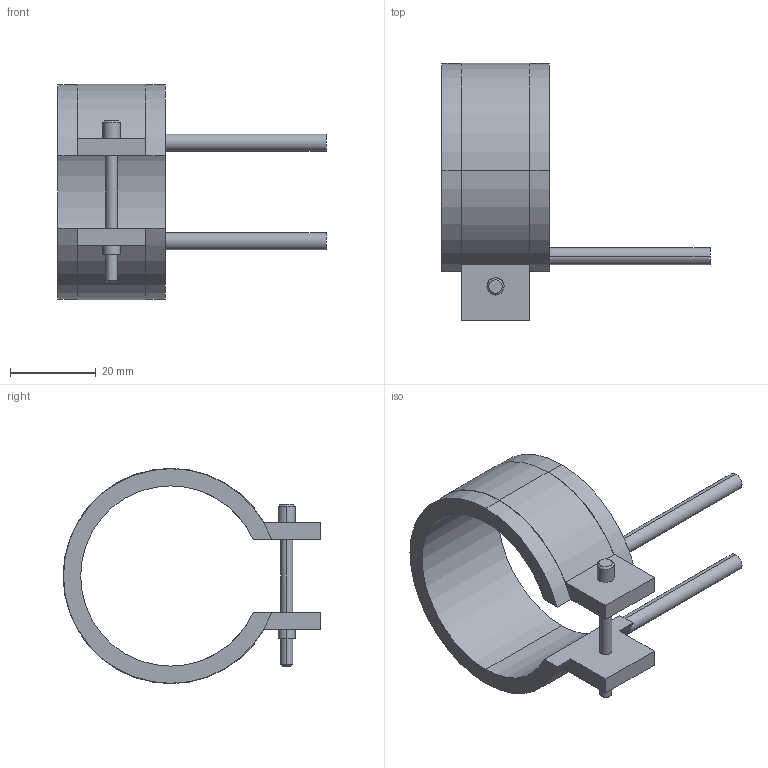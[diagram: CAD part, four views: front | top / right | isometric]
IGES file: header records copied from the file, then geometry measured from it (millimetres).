
Start section: START RECORD GO HERE.
Global section: file name: 14042025.igs; native system: DASSAULT SYSTEMES CATIA V5 R20 - www.3ds.com; preprocessor: CATIA Version 5 Release 20 ; author: Utente; organization: NB04-ASUS; date: 20210331.140459; units: millimetre
Bounding box: 62.5 x 60.1 x 50.2 mm (x, y, z)
Surface area: 9808.8 mm2 (no closed solid volume)
Topology: 0 solids, 0 shells, 45 faces, 232 edges, 232 vertices
Faces by surface type: revolution 28, plane 17
